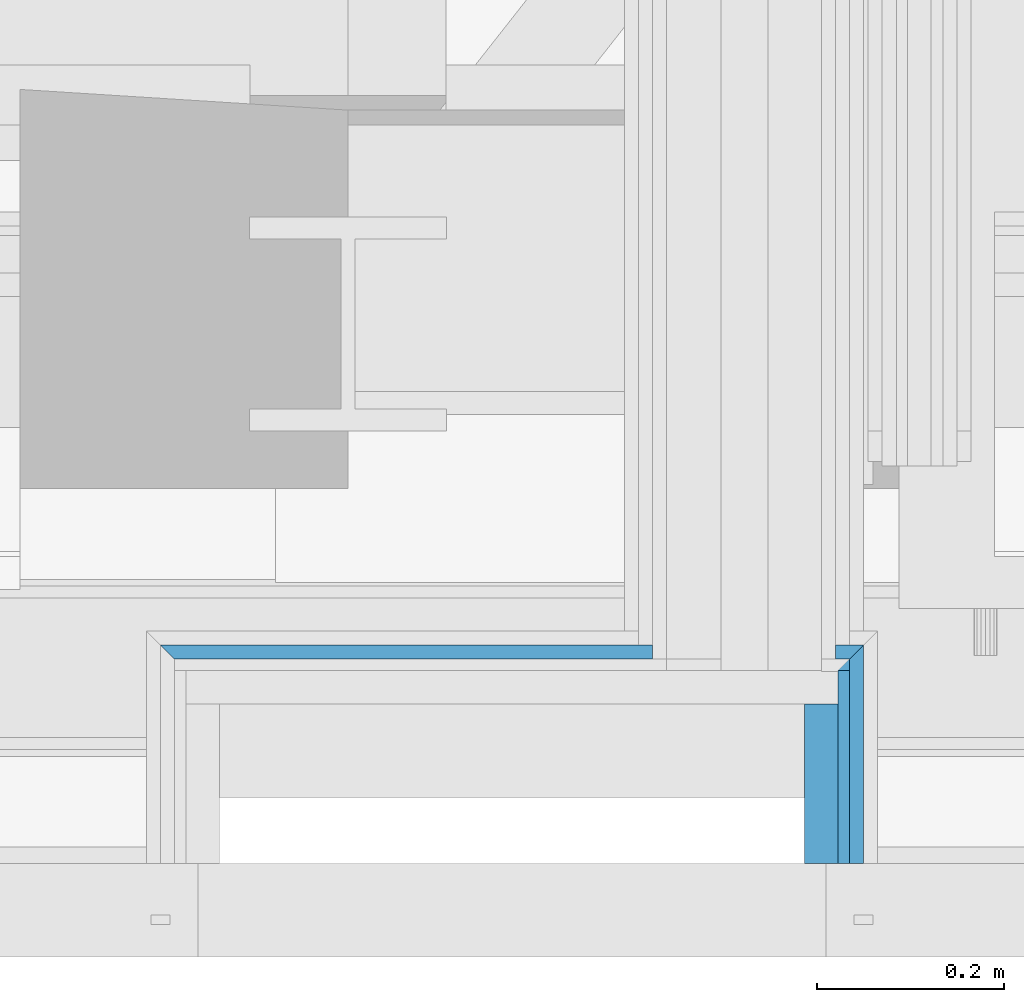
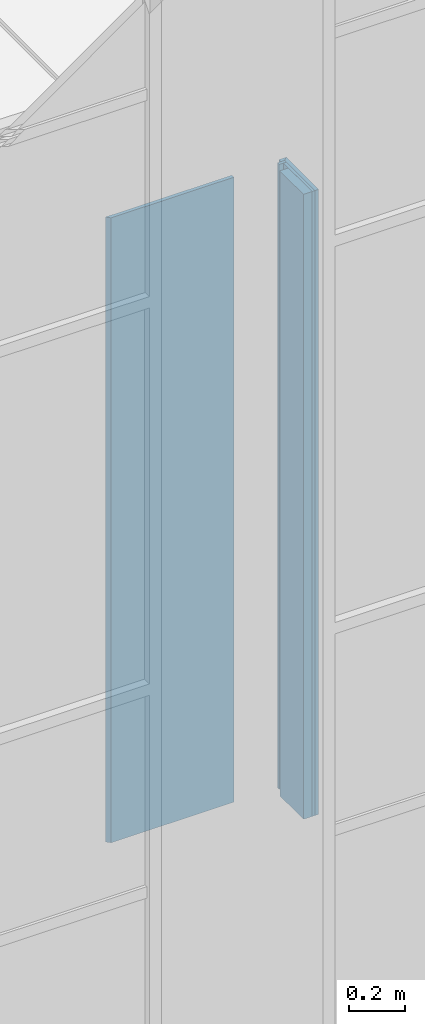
# One storey, part 50 of 183: 6 building element parts, 2 elements without a shape of their own.
"""IFC2X3 building model written with IfcOpenShell, lengths in metres."""

from ifc_helpers import new_model, entity, si_unit, converted_unit, derived_unit, money_unit, direction, frame, frame_2d, origin_with_axes, place, context, subcontext, project, spatial, polyline, rectangle, outline, extrude, material, type_object, element, aggregate, save


model = new_model("IFC2X3")

# Units and contexts
model_context = context("Model", 3, precision=1e-05, world=origin_with_axes(), true_north=direction((0.0, 1.0)))
body_context = subcontext(model_context, "Body", "Model", "MODEL_VIEW", scale=1.0)
ifc_project = project(units=[si_unit("LENGTHUNIT", "METRE"), si_unit("AREAUNIT", "SQUARE_METRE"), si_unit("VOLUMEUNIT", "CUBIC_METRE"), si_unit("ABSORBEDDOSEUNIT", "GRAY"), si_unit("AMOUNTOFSUBSTANCEUNIT", "MOLE"), si_unit("DOSEEQUIVALENTUNIT", "SIEVERT"), si_unit("ELECTRICCAPACITANCEUNIT", "FARAD"), si_unit("ELECTRICCHARGEUNIT", "COULOMB"), si_unit("ELECTRICCONDUCTANCEUNIT", "SIEMENS"), si_unit("ELECTRICCURRENTUNIT", "AMPERE"), si_unit("ELECTRICRESISTANCEUNIT", "OHM"), si_unit("ELECTRICVOLTAGEUNIT", "VOLT"), si_unit("ENERGYUNIT", "JOULE"), si_unit("FORCEUNIT", "NEWTON"), si_unit("FREQUENCYUNIT", "HERTZ"), si_unit("ILLUMINANCEUNIT", "LUX"), si_unit("INDUCTANCEUNIT", "HENRY"), si_unit("LUMINOUSFLUXUNIT", "LUMEN"), si_unit("LUMINOUSINTENSITYUNIT", "CANDELA"), si_unit("MAGNETICFLUXDENSITYUNIT", "TESLA"), si_unit("MAGNETICFLUXUNIT", "WEBER"), si_unit("MASSUNIT", "GRAM"), converted_unit("PLANEANGLEUNIT", "degree", entity("IfcReal", 0.0174532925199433), si_unit("PLANEANGLEUNIT", "RADIAN"), dimensions=[0, 0, 0, 0, 0, 0, 0]), si_unit("POWERUNIT", "WATT"), si_unit("PRESSUREUNIT", "PASCAL"), si_unit("RADIOACTIVITYUNIT", "BECQUEREL"), si_unit("SOLIDANGLEUNIT", "STERADIAN"), si_unit("THERMODYNAMICTEMPERATUREUNIT", "KELVIN"), si_unit("TIMEUNIT", "SECOND"), derived_unit("ACCELERATIONUNIT", [(si_unit("LENGTHUNIT", "METRE"), 1), (si_unit("TIMEUNIT", "SECOND"), -2)]), derived_unit("ANGULARVELOCITYUNIT", [(converted_unit("PLANEANGLEUNIT", "degree", entity("IfcReal", 0.0174532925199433), si_unit("PLANEANGLEUNIT", "RADIAN"), dimensions=[0, 0, 0, 0, 0, 0, 0]), 1), (si_unit("TIMEUNIT", "SECOND"), -1)]), derived_unit("CURVATUREUNIT", [(converted_unit("PLANEANGLEUNIT", "degree", entity("IfcReal", 0.0174532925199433), si_unit("PLANEANGLEUNIT", "RADIAN"), dimensions=[0, 0, 0, 0, 0, 0, 0]), 1), (si_unit("LENGTHUNIT", "METRE"), -1)]), derived_unit("DYNAMICVISCOSITYUNIT", [(si_unit("PRESSUREUNIT", "PASCAL"), 1), (si_unit("TIMEUNIT", "SECOND"), 1)]), derived_unit("HEATFLUXDENSITYUNIT", [(si_unit("POWERUNIT", "WATT"), 1), (si_unit("LENGTHUNIT", "METRE"), -2)]), derived_unit("HEATINGVALUEUNIT", [(si_unit("ENERGYUNIT", "JOULE"), 1), (si_unit("MASSUNIT", "GRAM"), -1)]), derived_unit("INTEGERCOUNTRATEUNIT", [(si_unit("TIMEUNIT", "SECOND"), -1)]), derived_unit("IONCONCENTRATIONUNIT", [(si_unit("MASSUNIT", "GRAM"), 1), (si_unit("VOLUMEUNIT", "CUBIC_METRE"), -1)]), derived_unit("ISOTHERMALMOISTURECAPACITYUNIT", [(si_unit("VOLUMEUNIT", "CUBIC_METRE"), 1), (si_unit("MASSUNIT", "GRAM"), -1)]), derived_unit("KINEMATICVISCOSITYUNIT", [(si_unit("AREAUNIT", "SQUARE_METRE"), 1), (si_unit("TIMEUNIT", "SECOND"), -1)]), derived_unit("LINEARFORCEUNIT", [(si_unit("FORCEUNIT", "NEWTON"), 1), (si_unit("LENGTHUNIT", "METRE"), -1)]), derived_unit("LINEARMOMENTUNIT", [(si_unit("FORCEUNIT", "NEWTON"), 1), (si_unit("LENGTHUNIT", "METRE"), -1)]), derived_unit("LINEARSTIFFNESSUNIT", [(si_unit("FORCEUNIT", "NEWTON"), 1), (si_unit("LENGTHUNIT", "METRE"), -1)]), derived_unit("LINEARVELOCITYUNIT", [(si_unit("LENGTHUNIT", "METRE"), 1), (si_unit("TIMEUNIT", "SECOND"), -1)]), derived_unit("LUMINOUSINTENSITYDISTRIBUTIONUNIT", [(si_unit("LUMINOUSINTENSITYUNIT", "CANDELA"), 1), (si_unit("LUMINOUSFLUXUNIT", "LUMEN"), -1)]), derived_unit("MASSDENSITYUNIT", [(si_unit("MASSUNIT", "GRAM"), 1), (si_unit("VOLUMEUNIT", "CUBIC_METRE"), -1)]), derived_unit("MASSFLOWRATEUNIT", [(si_unit("MASSUNIT", "GRAM"), 1), (si_unit("TIMEUNIT", "SECOND"), -1)]), derived_unit("MASSPERLENGTHUNIT", [(si_unit("MASSUNIT", "GRAM"), 1), (si_unit("LENGTHUNIT", "METRE"), -1)]), derived_unit("MODULUSOFELASTICITYUNIT", [(si_unit("FORCEUNIT", "NEWTON"), 1), (si_unit("AREAUNIT", "SQUARE_METRE"), -1)]), derived_unit("MODULUSOFLINEARSUBGRADEREACTIONUNIT", [(si_unit("FORCEUNIT", "NEWTON"), 1), (si_unit("LENGTHUNIT", "METRE"), -2)]), derived_unit("MODULUSOFROTATIONALSUBGRADEREACTIONUNIT", [(si_unit("FORCEUNIT", "NEWTON"), 1), (si_unit("LENGTHUNIT", "METRE"), 1)]), derived_unit("MODULUSOFSUBGRADEREACTIONUNIT", [(si_unit("FORCEUNIT", "NEWTON"), 1), (si_unit("VOLUMEUNIT", "CUBIC_METRE"), -1)]), derived_unit("MOISTUREDIFFUSIVITYUNIT", [(si_unit("VOLUMEUNIT", "CUBIC_METRE"), 1), (si_unit("TIMEUNIT", "SECOND"), -1)]), derived_unit("MOLECULARWEIGHTUNIT", [(si_unit("MASSUNIT", "GRAM"), 1), (si_unit("AMOUNTOFSUBSTANCEUNIT", "MOLE"), -1)]), derived_unit("PLANARFORCEUNIT", [(si_unit("FORCEUNIT", "NEWTON"), 1), (si_unit("LENGTHUNIT", "METRE"), -2)]), derived_unit("ROTATIONALFREQUENCYUNIT", [(si_unit("TIMEUNIT", "SECOND"), -1)]), derived_unit("ROTATIONALMASSUNIT", [(si_unit("MASSUNIT", "GRAM"), 1), (si_unit("LENGTHUNIT", "METRE"), 2)]), derived_unit("ROTATIONALSTIFFNESSUNIT", [(si_unit("FORCEUNIT", "NEWTON"), 1), (si_unit("LENGTHUNIT", "METRE"), 1), (converted_unit("PLANEANGLEUNIT", "degree", entity("IfcReal", 0.0174532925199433), si_unit("PLANEANGLEUNIT", "RADIAN"), dimensions=[0, 0, 0, 0, 0, 0, 0]), -1)]), derived_unit("SECTIONAREAINTEGRALUNIT", [(si_unit("LENGTHUNIT", "METRE"), 5)]), derived_unit("SECTIONMODULUSUNIT", [(si_unit("LENGTHUNIT", "METRE"), 3)]), derived_unit("SHEARMODULUSUNIT", [(si_unit("FORCEUNIT", "NEWTON"), 1), (si_unit("AREAUNIT", "SQUARE_METRE"), -1)]), derived_unit("SOUNDPOWERUNIT", [(si_unit("ENERGYUNIT", "JOULE"), 1), (si_unit("TIMEUNIT", "SECOND"), -1)]), derived_unit("SPECIFICHEATCAPACITYUNIT", [(si_unit("FORCEUNIT", "NEWTON"), 1), (si_unit("MASSUNIT", "GRAM"), -1), (si_unit("THERMODYNAMICTEMPERATUREUNIT", "KELVIN"), -1)]), derived_unit("TEMPERATUREGRADIENTUNIT", [(si_unit("THERMODYNAMICTEMPERATUREUNIT", "KELVIN"), 1), (si_unit("LENGTHUNIT", "METRE"), -1)]), derived_unit("THERMALADMITTANCEUNIT", [(si_unit("POWERUNIT", "WATT"), 1), (si_unit("AREAUNIT", "SQUARE_METRE"), -1), (si_unit("THERMODYNAMICTEMPERATUREUNIT", "KELVIN"), -1)]), derived_unit("THERMALCONDUCTANCEUNIT", [(si_unit("POWERUNIT", "WATT"), 1), (si_unit("LENGTHUNIT", "METRE"), -1), (si_unit("THERMODYNAMICTEMPERATUREUNIT", "KELVIN"), -1)]), derived_unit("THERMALEXPANSIONCOEFFICIENTUNIT", [(si_unit("THERMODYNAMICTEMPERATUREUNIT", "KELVIN"), -1)]), derived_unit("THERMALRESISTANCEUNIT", [(si_unit("AREAUNIT", "SQUARE_METRE"), 1), (si_unit("POWERUNIT", "WATT"), -1)]), derived_unit("THERMALTRANSMITTANCEUNIT", [(si_unit("POWERUNIT", "WATT"), 1), (si_unit("AREAUNIT", "SQUARE_METRE"), -1), (si_unit("THERMODYNAMICTEMPERATUREUNIT", "KELVIN"), -1)]), derived_unit("TORQUEUNIT", [(si_unit("FORCEUNIT", "NEWTON"), 1), (si_unit("LENGTHUNIT", "METRE"), 1)]), derived_unit("VAPORPERMEABILITYUNIT", [(si_unit("MASSUNIT", "GRAM"), 1), (si_unit("TIMEUNIT", "SECOND"), -1)]), derived_unit("VOLUMETRICFLOWRATEUNIT", [(si_unit("VOLUMEUNIT", "CUBIC_METRE"), 1), (si_unit("TIMEUNIT", "SECOND"), -1)]), derived_unit("WARPINGCONSTANTUNIT", [(si_unit("LENGTHUNIT", "METRE"), 6)]), derived_unit("WARPINGMOMENTUNIT", [(si_unit("FORCEUNIT", "NEWTON"), 1), (si_unit("LENGTHUNIT", "METRE"), 2)]), money_unit("GBP")], contexts=[model_context])

# Site, building, storey
site_placement = place(None, origin_with_axes())
site = spatial("IfcSite", under=ifc_project, at=site_placement, Name="Site", CompositionType="ELEMENT")
building_placement = place(site_placement, origin_with_axes())
building = spatial("IfcBuilding", under=site, at=building_placement, Name="Building01", CompositionType="ELEMENT")
storey_placement = place(building_placement, frame((0.0, 0.0, 5.15), z_axis=(0.0, 0.0, 1.0), x_axis=(1.0, 0.0, 0.0)))
storey = spatial("IfcBuildingStorey", under=building, at=storey_placement, Name="1F", CompositionType="ELEMENT", Elevation=5.15)

# Wall, building element parts
wall_type = type_object("IfcWallType", Name="SHE_A-Walls_Type06f_ExternalWallInsulation_48+15mm", PredefinedType="NOTDEFINED")
wall_1_placement = place(storey_placement, frame((21.917, 0.27, 0.0), z_axis=(0.0, 0.0, 1.0), x_axis=(1.0, 0.0, 0.0)))
wall_1 = element("IfcWall", 1, at=wall_1_placement, inside=storey, type_object=wall_type, Name="6F", ObjectType="SHE_A-Walls_Type06f_ExternalWallInsulation_48+15mm")
ifc_material_1 = material(Name="A_BSUK_WallInternal_Finishes_Plasterboard")
placement_1 = place(wall_1_placement, origin_with_axes())
building_element_part_1 = element("IfcBuildingElementPart", 2, at=placement_1, material=ifc_material_1, Name="3", context=body_context, shape_type="SweptSolid", body=[
    extrude(rectangle(XDim=0.03, YDim=0.012, at=frame_2d((0.693, 0.042), x_axis=(-1.0, 0.0))), origin_with_axes(), (0.0, 0.0, 1.0), 2.74),
])
building_element_part_2 = element("IfcBuildingElementPart", 3, at=placement_1, material=ifc_material_1, Name="4", context=body_context, shape_type="SweptSolid", body=[
    extrude(outline(polyline([(0.723, 0.063), (0.693, 0.063), (0.693, 0.048), (0.708, 0.048), (0.723, 0.063)])), origin_with_axes(), (0.0, 0.0, 1.0), 2.74),
])
building_element_part_3 = element("IfcBuildingElementPart", 4, at=placement_1, material=ifc_material_1, Name="5", context=body_context, shape_type="SweptSolid", body=[
    extrude(outline(polyline([(0.498, 0.063), (-0.027, 0.063), (-0.012, 0.048), (0.498, 0.048), (0.498, 0.063)])), origin_with_axes(), (0.0, 0.0, 1.0), 2.74),
])
aggregate(wall_1, [building_element_part_1, building_element_part_2, building_element_part_3])

wall_2_placement = place(storey_placement, frame((22.577, 0.27, 0.0), z_axis=(0.0, 0.0, 1.0), x_axis=(0.0, -1.0, 0.0)))
wall_2 = element("IfcWall", 5, at=wall_2_placement, inside=storey, type_object=wall_type, Name="6F", ObjectType="SHE_A-Walls_Type06f_ExternalWallInsulation_48+15mm")
ifc_material_2 = material(Name="A_BSUK_Insulation")
placement_2 = place(wall_2_placement, origin_with_axes())
building_element_part_4 = element("IfcBuildingElementPart", 6, at=placement_2, material=ifc_material_2, Name="1", context=body_context, shape_type="SweptSolid", body=[
    extrude(rectangle(XDim=0.036, YDim=0.17, at=frame_2d((0.085, 0.018), x_axis=(0.0, -1.0))), origin_with_axes(), (0.0, 0.0, 1.0), 2.74),
])
building_element_part_5 = element("IfcBuildingElementPart", 7, at=placement_2, material=ifc_material_1, Name="2", context=body_context, shape_type="SweptSolid", body=[
    extrude(rectangle(XDim=0.012, YDim=0.206, at=frame_2d((0.067, 0.042), x_axis=(0.0, -1.0))), origin_with_axes(), (0.0, 0.0, 1.0), 2.74),
])
building_element_part_6 = element("IfcBuildingElementPart", 8, at=placement_2, material=ifc_material_1, Name="3", context=body_context, shape_type="SweptSolid", body=[
    extrude(outline(polyline([(-0.063, 0.063), (-0.048, 0.048), (0.17, 0.048), (0.17, 0.063), (-0.063, 0.063)])), origin_with_axes(), (0.0, 0.0, 1.0), 2.74),
])
aggregate(wall_2, [building_element_part_4, building_element_part_5, building_element_part_6])

save(model, "model.ifc")
